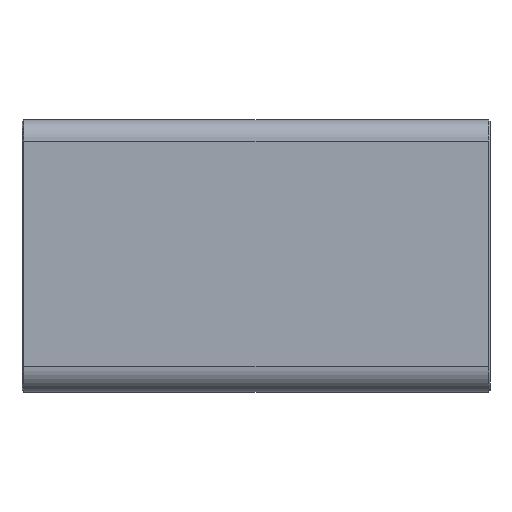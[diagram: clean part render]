
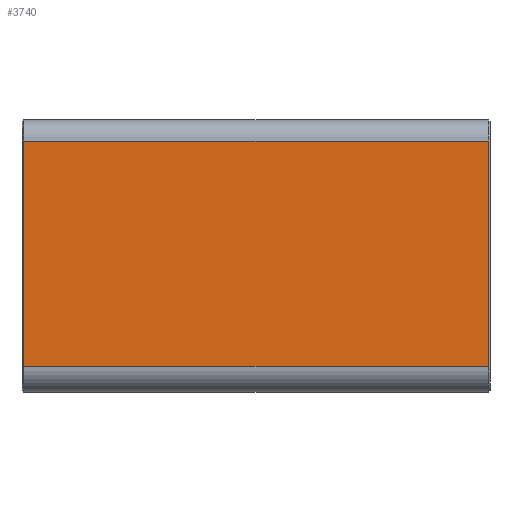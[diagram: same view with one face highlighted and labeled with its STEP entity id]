
A CAD part, top view. The second image highlights one B-rep face of the part: STEP entity #3740.
In plain terms, the highlighted planar face has unit normal (0, 0, 1).
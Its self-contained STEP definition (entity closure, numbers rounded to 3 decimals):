
#979 = PLANE('',#980);
#980 = AXIS2_PLACEMENT_3D('',#981,#982,#983);
#981 = CARTESIAN_POINT('',(-27.4,-27.,1.9));
#982 = DIRECTION('',(0.707,0.,-0.707)
  );
#983 = DIRECTION('',(0.,-1.,0.));
#1534 = PLANE('',#1535);
#1535 = AXIS2_PLACEMENT_3D('',#1536,#1537,#1538);
#1536 = CARTESIAN_POINT('',(27.4,-27.,1.9));
#1537 = DIRECTION('',(0.707,0.,0.707)
  );
#1538 = DIRECTION('',(0.,-1.,0.));
#2048 = CYLINDRICAL_SURFACE('',#2049,2.5);
#2049 = AXIS2_PLACEMENT_3D('',#2050,#2051,#2052);
#2050 = CARTESIAN_POINT('',(-27.5,-0.5,-0.5));
#2051 = DIRECTION('',(-1.,0.,0.));
#2052 = DIRECTION('',(0.,-1.,0.));
#2411 = VERTEX_POINT('',#2412);
#2412 = CARTESIAN_POINT('',(-27.3,-0.5,2.));
#2512 = VERTEX_POINT('',#2513);
#2513 = CARTESIAN_POINT('',(-27.3,-27.,2.));
#2532 = EDGE_CURVE('',#2512,#2411,#2533,.T.);
#2533 = SURFACE_CURVE('',#2534,(#2538,#2545),.PCURVE_S1.);
#2534 = LINE('',#2535,#2536);
#2535 = CARTESIAN_POINT('',(-27.3,-27.,2.));
#2536 = VECTOR('',#2537,1.);
#2537 = DIRECTION('',(0.,1.,0.));
#2538 = PCURVE('',#979,#2539);
#2539 = DEFINITIONAL_REPRESENTATION('',(#2540),#2544);
#2540 = LINE('',#2541,#2542);
#2541 = CARTESIAN_POINT('',(-0.,-0.141));
#2542 = VECTOR('',#2543,1.);
#2543 = DIRECTION('',(-1.,0.));
#2544 = ( GEOMETRIC_REPRESENTATION_CONTEXT(2) 
PARAMETRIC_REPRESENTATION_CONTEXT() REPRESENTATION_CONTEXT('2D SPACE',''
  ) );
#2545 = PCURVE('',#2546,#2551);
#2546 = PLANE('',#2547);
#2547 = AXIS2_PLACEMENT_3D('',#2548,#2549,#2550);
#2548 = CARTESIAN_POINT('',(-27.5,-27.,2.));
#2549 = DIRECTION('',(0.,0.,1.));
#2550 = DIRECTION('',(0.,1.,0.));
#2551 = DEFINITIONAL_REPRESENTATION('',(#2552),#2556);
#2552 = LINE('',#2553,#2554);
#2553 = CARTESIAN_POINT('',(0.,-0.2));
#2554 = VECTOR('',#2555,1.);
#2555 = DIRECTION('',(1.,0.));
#2556 = ( GEOMETRIC_REPRESENTATION_CONTEXT(2) 
PARAMETRIC_REPRESENTATION_CONTEXT() REPRESENTATION_CONTEXT('2D SPACE',''
  ) );
#2651 = CYLINDRICAL_SURFACE('',#2652,3.);
#2652 = AXIS2_PLACEMENT_3D('',#2653,#2654,#2655);
#2653 = CARTESIAN_POINT('',(-27.5,-27.,-1.));
#2654 = DIRECTION('',(-1.,-0.,0.));
#2655 = DIRECTION('',(0.,1.,0.));
#3134 = VERTEX_POINT('',#3135);
#3135 = CARTESIAN_POINT('',(27.3,-0.5,2.));
#3230 = VERTEX_POINT('',#3231);
#3231 = CARTESIAN_POINT('',(27.3,-27.,2.));
#3250 = EDGE_CURVE('',#3230,#3134,#3251,.T.);
#3251 = SURFACE_CURVE('',#3252,(#3256,#3263),.PCURVE_S1.);
#3252 = LINE('',#3253,#3254);
#3253 = CARTESIAN_POINT('',(27.3,-27.,2.));
#3254 = VECTOR('',#3255,1.);
#3255 = DIRECTION('',(0.,1.,0.));
#3256 = PCURVE('',#1534,#3257);
#3257 = DEFINITIONAL_REPRESENTATION('',(#3258),#3262);
#3258 = LINE('',#3259,#3260);
#3259 = CARTESIAN_POINT('',(-0.,-0.141));
#3260 = VECTOR('',#3261,1.);
#3261 = DIRECTION('',(-1.,0.));
#3262 = ( GEOMETRIC_REPRESENTATION_CONTEXT(2) 
PARAMETRIC_REPRESENTATION_CONTEXT() REPRESENTATION_CONTEXT('2D SPACE',''
  ) );
#3263 = PCURVE('',#2546,#3264);
#3264 = DEFINITIONAL_REPRESENTATION('',(#3265),#3269);
#3265 = LINE('',#3266,#3267);
#3266 = CARTESIAN_POINT('',(0.,-54.8));
#3267 = VECTOR('',#3268,1.);
#3268 = DIRECTION('',(1.,0.));
#3269 = ( GEOMETRIC_REPRESENTATION_CONTEXT(2) 
PARAMETRIC_REPRESENTATION_CONTEXT() REPRESENTATION_CONTEXT('2D SPACE',''
  ) );
#3663 = EDGE_CURVE('',#2411,#3134,#3664,.T.);
#3664 = SURFACE_CURVE('',#3665,(#3669,#3676),.PCURVE_S1.);
#3665 = LINE('',#3666,#3667);
#3666 = CARTESIAN_POINT('',(-27.5,-0.5,2.));
#3667 = VECTOR('',#3668,1.);
#3668 = DIRECTION('',(1.,0.,0.));
#3669 = PCURVE('',#2048,#3670);
#3670 = DEFINITIONAL_REPRESENTATION('',(#3671),#3675);
#3671 = LINE('',#3672,#3673);
#3672 = CARTESIAN_POINT('',(1.571,0.));
#3673 = VECTOR('',#3674,1.);
#3674 = DIRECTION('',(0.,-1.));
#3675 = ( GEOMETRIC_REPRESENTATION_CONTEXT(2) 
PARAMETRIC_REPRESENTATION_CONTEXT() REPRESENTATION_CONTEXT('2D SPACE',''
  ) );
#3676 = PCURVE('',#2546,#3677);
#3677 = DEFINITIONAL_REPRESENTATION('',(#3678),#3682);
#3678 = LINE('',#3679,#3680);
#3679 = CARTESIAN_POINT('',(26.5,0.));
#3680 = VECTOR('',#3681,1.);
#3681 = DIRECTION('',(0.,-1.));
#3682 = ( GEOMETRIC_REPRESENTATION_CONTEXT(2) 
PARAMETRIC_REPRESENTATION_CONTEXT() REPRESENTATION_CONTEXT('2D SPACE',''
  ) );
#3740 = ADVANCED_FACE('',(#3741),#2546,.T.);
#3741 = FACE_BOUND('',#3742,.T.);
#3742 = EDGE_LOOP('',(#3743,#3764,#3765,#3766));
#3743 = ORIENTED_EDGE('',*,*,#3744,.T.);
#3744 = EDGE_CURVE('',#2512,#3230,#3745,.T.);
#3745 = SURFACE_CURVE('',#3746,(#3750,#3757),.PCURVE_S1.);
#3746 = LINE('',#3747,#3748);
#3747 = CARTESIAN_POINT('',(-27.5,-27.,2.));
#3748 = VECTOR('',#3749,1.);
#3749 = DIRECTION('',(1.,0.,0.));
#3750 = PCURVE('',#2546,#3751);
#3751 = DEFINITIONAL_REPRESENTATION('',(#3752),#3756);
#3752 = LINE('',#3753,#3754);
#3753 = CARTESIAN_POINT('',(0.,0.));
#3754 = VECTOR('',#3755,1.);
#3755 = DIRECTION('',(0.,-1.));
#3756 = ( GEOMETRIC_REPRESENTATION_CONTEXT(2) 
PARAMETRIC_REPRESENTATION_CONTEXT() REPRESENTATION_CONTEXT('2D SPACE',''
  ) );
#3757 = PCURVE('',#2651,#3758);
#3758 = DEFINITIONAL_REPRESENTATION('',(#3759),#3763);
#3759 = LINE('',#3760,#3761);
#3760 = CARTESIAN_POINT('',(-1.571,0.));
#3761 = VECTOR('',#3762,1.);
#3762 = DIRECTION('',(-0.,-1.));
#3763 = ( GEOMETRIC_REPRESENTATION_CONTEXT(2) 
PARAMETRIC_REPRESENTATION_CONTEXT() REPRESENTATION_CONTEXT('2D SPACE',''
  ) );
#3764 = ORIENTED_EDGE('',*,*,#3250,.T.);
#3765 = ORIENTED_EDGE('',*,*,#3663,.F.);
#3766 = ORIENTED_EDGE('',*,*,#2532,.F.);
